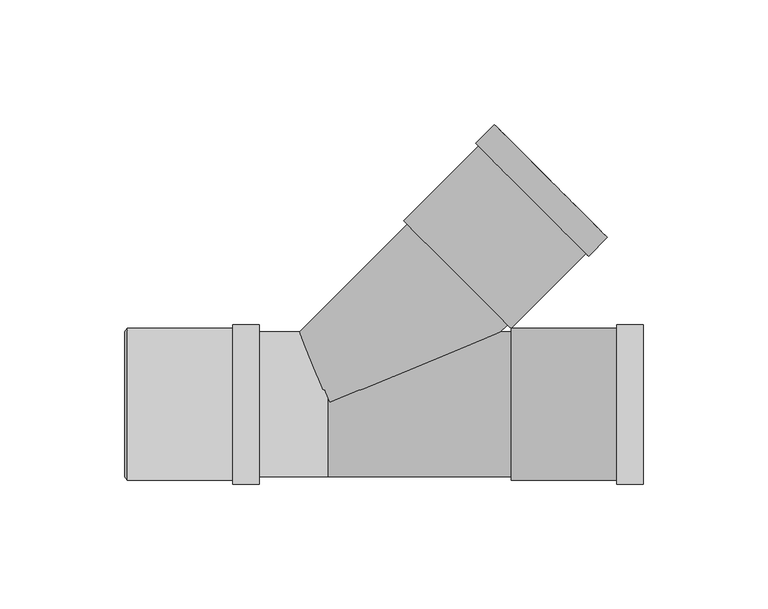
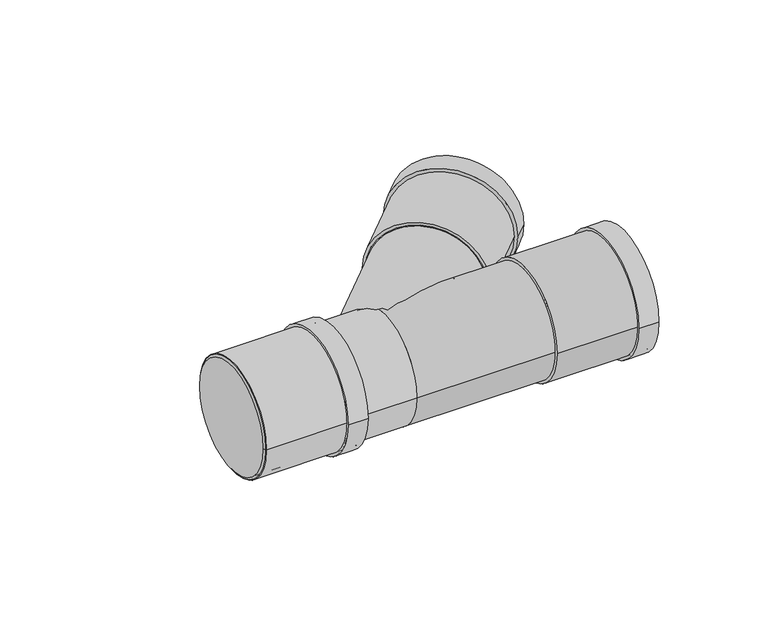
"""IFC4 building model written with IfcOpenShell, lengths in millimetres: pipe fitting geometry, Superdrain SKEA Branch : Superdrain SKEA Branch."""

from ifc_helpers import new_model, si_unit, point, frame, origin, origin_2d, place, context, project, spatial, polyline, circle_curve, ellipse_curve, trimmed, segment, composite_curve, outline, extrude, source, transform, mapped, element, save
from ifc_brep_helpers import plane_surface, cylinder_surface, revolved_surface, advanced_brep


def pipe_fitting_bbc5507e(model_context):
    return source(origin(), model_context, "Body", "SolidModel", [
        extrude(outline(composite_curve([segment(trimmed(circle_curve(origin_2d(), 30.45), [point((30.45, 0.0))], [point((-30.45, 0.0))], False, "CARTESIAN"), True, "CONTINUOUS"), segment(trimmed(circle_curve(origin_2d(), 30.45), [point((-30.45, 0.0))], [point((30.45, 0.0))], False, "CARTESIAN"), True, "CONTINUOUS")], self_intersect=False), holes=[composite_curve([segment(trimmed(circle_curve(origin_2d(), 29.0), [point((29.0, 0.0))], [point((-29.0, 0.0))], True, "CARTESIAN"), True, "CONTINUOUS"), segment(trimmed(circle_curve(origin_2d(), 29.0), [point((-29.0, 0.0))], [point((29.0, 0.0))], True, "CARTESIAN"), True, "CONTINUOUS")], self_intersect=False)]), frame((-80.4, 0.0, 0.0), z_axis=(1.0, 0.0, 0.0), x_axis=(0.0, 1.0, 0.0)), (0.0, 0.0, 1.0), 53.0),
        extrude(outline(composite_curve([segment(trimmed(circle_curve(origin_2d(), 31.9725), [point((31.9725, 0.0))], [point((-31.9725, 0.0))], False, "CARTESIAN"), True, "CONTINUOUS"), segment(trimmed(circle_curve(origin_2d(), 31.9725), [point((-31.9725, 0.0))], [point((31.9725, 0.0))], False, "CARTESIAN"), True, "CONTINUOUS")], self_intersect=False), holes=[composite_curve([segment(trimmed(circle_curve(origin_2d(), 29.0), [point((29.0, 0.0))], [point((-29.0, 0.0))], True, "CARTESIAN"), True, "CONTINUOUS"), segment(trimmed(circle_curve(origin_2d(), 29.0), [point((-29.0, 0.0))], [point((29.0, 0.0))], True, "CARTESIAN"), True, "CONTINUOUS")], self_intersect=False)]), frame((-38.0, 0.0, 0.0), z_axis=(1.0, 0.0, 0.0), x_axis=(0.0, 1.0, 0.0)), (0.0, 0.0, 1.0), 10.6),
        advanced_brep(
        [(-81.4, 29.0, 0.0), (-81.4, -29.0, 0.0), (-80.4, 30.45, 0.0), (-80.4, -30.45, 0.0)],
        [
            (0, 1, circle_curve(frame((-81.4, 0.0, 0.0), z_axis=(-1.0, 0.0, 0.0), x_axis=(0.0, 1.0000000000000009, 0.0)), 29.0)),
            (1, 0, circle_curve(frame((-81.4, 0.0, 0.0), z_axis=(-1.0, 0.0, 0.0), x_axis=(0.0, -1.0000000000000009, 0.0)), 29.0)),
            (2, 3, circle_curve(frame((-80.4, 0.0, 0.0), z_axis=(1.0, 0.0, 0.0), x_axis=(0.0, -1.0000000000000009, 0.0)), 30.45)),
            (3, 2, circle_curve(frame((-80.4, 0.0, 0.0), z_axis=(1.0, 0.0, 0.0), x_axis=(0.0, 1.0000000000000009, 0.0)), 30.45)),
            (3, 1),
            (0, 2),
        ],
        [
            plane_surface(frame((-81.4, 0.0, 0.0), z_axis=(-1.0, 0.0, 0.0), x_axis=(0.0, 0.0, -1.0))),
            plane_surface(frame((-80.4, 0.0, 0.0), z_axis=(1.0, 0.0, 0.0), x_axis=(0.0, 0.0, -1.0))),
            revolved_surface(polyline([(-81.4, 28.999999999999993, 0.0), (-80.4, 30.45, 0.0)]), (-101.4, 0.0, 0.0), (1.0000000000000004, 0.0, 0.0)),
            revolved_surface(polyline([(-81.4, -28.999999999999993, 0.0), (-80.4, -30.45, 0.0)]), (-101.4, 0.0, 0.0), (1.0000000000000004, 0.0, 0.0)),
        ],
        [
            (0, [[1, 2]]),
            (1, [[3, 4]]),
            (2, [[-4, 5, -1, 6]]),
            (3, [[-3, -6, -2, -5]]),
        ],
    ),
        advanced_brep(
        [(72.1390338, 31.9470844, 0.0), (31.9470844, 72.1390338, 0.0), (-11.7719494, 28.42, 0.0), (0.0, 0.0, 28.42), (68.6119494, 28.42, 0.0), (0.0, 0.0, -28.42)],
        [
            (0, 1, circle_curve(frame((52.0430591, 52.0430591, 0.0), z_axis=(0.7071067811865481, 0.707106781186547, 0.0), x_axis=(-0.707106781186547, 0.7071067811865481, 0.0)), 28.42)),
            (1, 0, circle_curve(frame((52.0430591, 52.0430591, 0.0), z_axis=(0.7071067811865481, 0.707106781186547, 0.0), x_axis=(-0.707106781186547, 0.7071067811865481, 0.0)), 28.42)),
            (1, 2),
            (2, 3, ellipse_curve(frame((0.0, 0.0, 0.0), z_axis=(0.923879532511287, 0.38268343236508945, 0.0), x_axis=(0.38268343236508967, -0.923879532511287, 0.0)), 30.7615863, 28.42)),
            (3, 4, ellipse_curve(frame((0.0, 0.0, 0.0), z_axis=(-0.3826834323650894, 0.9238795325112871, 0.0), x_axis=(-0.9238795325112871, -0.38268343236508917, 0.0)), 74.2650389, 28.42)),
            (4, 0),
            (4, 5, ellipse_curve(frame((0.0, 0.0, 0.0), z_axis=(-0.3826834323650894, 0.9238795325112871, 0.0), x_axis=(-0.9238795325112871, -0.38268343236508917, 0.0)), 74.2650389, 28.42)),
            (5, 2, ellipse_curve(frame((0.0, 0.0, 0.0), z_axis=(0.923879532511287, 0.38268343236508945, 0.0), x_axis=(0.38268343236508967, -0.923879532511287, 0.0)), 30.7615863, 28.42)),
            (2, 4),
        ],
        [
            plane_surface(frame((52.0430591, 52.0430591, 0.0), z_axis=(0.7071067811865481, 0.707106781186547, 0.0), x_axis=(0.0, 0.0, 1.0))),
            cylinder_surface(frame((0.0, 0.0, 0.0), z_axis=(-0.7071067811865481, -0.707106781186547, 0.0), x_axis=(-0.707106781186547, 0.7071067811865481, 0.0)), 28.42),
            revolved_surface(polyline([(-68.61194942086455, 28.42, 0.0), (68.61194942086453, 28.42, 0.0)]), (-85.4, 0.0, 0.0), (-1.0, 0.0, 0.0)),
        ],
        [
            (0, [[1, 2]]),
            (1, [[-2, 3, 4, 5, 6]]),
            (1, [[-1, -6, 7, 8, -3]]),
            (2, [[9, -5, -4]]),
            (2, [[-9, -8, -7]]),
        ],
    ),
        advanced_brep(
        [(73.6, -30.45, 0.0), (73.6, 30.45, 0.0), (126.6, -30.45, 0.0), (126.6, 30.45, 0.0), (126.6, -29.0, 0.0), (126.6, 29.0, 0.0), (74.6, -29.0, 0.0), (74.6, 29.0, 0.0)],
        [
            (0, 1, circle_curve(frame((73.6, 0.0, 0.0), z_axis=(-1.0, 0.0, 0.0), x_axis=(0.0, 1.0, 0.0)), 30.45)),
            (1, 0, circle_curve(frame((73.6, 0.0, 0.0), z_axis=(-1.0, 0.0, 0.0), x_axis=(0.0, 1.0, 0.0)), 30.45)),
            (2, 3, circle_curve(frame((126.6, 0.0, 0.0), z_axis=(1.0, 0.0, 0.0), x_axis=(0.0, 1.0, 0.0)), 30.45)),
            (3, 2, circle_curve(frame((126.6, 0.0, 0.0), z_axis=(1.0, 0.0, 0.0), x_axis=(0.0, 1.0, 0.0)), 30.45)),
            (4, 5, circle_curve(frame((126.6, 0.0, 0.0), z_axis=(-1.0, 0.0, 0.0), x_axis=(0.0, 1.0, 0.0)), 29.0)),
            (5, 4, circle_curve(frame((126.6, 0.0, 0.0), z_axis=(-1.0, 0.0, 0.0), x_axis=(0.0, 1.0, 0.0)), 29.0)),
            (0, 2),
            (3, 1),
            (6, 7, circle_curve(frame((74.6, 0.0, 0.0), z_axis=(-1.0, 0.0, 0.0), x_axis=(0.0, 1.0, 0.0)), 29.0)),
            (7, 5),
            (4, 6),
            (7, 6, circle_curve(frame((74.6, 0.0, 0.0), z_axis=(-1.0, 0.0, 0.0), x_axis=(0.0, 1.0, 0.0)), 29.0)),
        ],
        [
            plane_surface(frame((73.6, 0.0, 0.0), z_axis=(-1.0, 0.0, 0.0), x_axis=(0.0, 0.0, 1.0))),
            plane_surface(frame((126.6, 0.0, 0.0), z_axis=(1.0, 0.0, 0.0), x_axis=(0.0, 0.0, 1.0))),
            cylinder_surface(frame((73.6, 0.0, 0.0), z_axis=(-1.0, 0.0, 0.0), x_axis=(0.0, 1.0, 0.0)), 30.45),
            revolved_surface(polyline([(74.6, 29.0, 0.0), (126.6, 29.0, 0.0)]), (74.6, 0.0, 0.0), (-1.0, 0.0, 0.0)),
            plane_surface(frame((74.6, 0.0, 0.0), z_axis=(1.0, 0.0, 0.0), x_axis=(0.0, 0.0, 1.0))),
        ],
        [
            (0, [[1, 2]]),
            (1, [[3, 4], [5, 6]]),
            (2, [[-1, 7, -4, 8]]),
            (2, [[-2, -8, -3, -7]]),
            (3, [[9, 10, -5, 11]]),
            (3, [[12, -11, -6, -10]]),
            (4, [[-12, -9]]),
        ],
    ),
        extrude(outline(composite_curve([segment(trimmed(circle_curve(origin_2d(), 31.9725), [point((31.9725, 0.0))], [point((-31.9725, 0.0))], False, "CARTESIAN"), True, "CONTINUOUS"), segment(trimmed(circle_curve(origin_2d(), 31.9725), [point((-31.9725, 0.0))], [point((31.9725, 0.0))], False, "CARTESIAN"), True, "CONTINUOUS")], self_intersect=False), holes=[composite_curve([segment(trimmed(circle_curve(origin_2d(), 29.0), [point((29.0, 0.0))], [point((-29.0, 0.0))], True, "CARTESIAN"), True, "CONTINUOUS"), segment(trimmed(circle_curve(origin_2d(), 29.0), [point((-29.0, 0.0))], [point((29.0, 0.0))], True, "CARTESIAN"), True, "CONTINUOUS")], self_intersect=False)]), frame((116.0, 0.0, 0.0), z_axis=(1.0, 0.0, 0.0), x_axis=(0.0, 1.0, 0.0)), (0.0, 0.0, 1.0), 10.6),
        extrude(outline(composite_curve([segment(trimmed(circle_curve(origin_2d(), 29.0), [point((29.0, 0.0))], [point((-29.0, 0.0))], False, "CARTESIAN"), True, "CONTINUOUS"), segment(trimmed(circle_curve(origin_2d(), 29.0), [point((-29.0, 0.0))], [point((29.0, 0.0))], False, "CARTESIAN"), True, "CONTINUOUS")], self_intersect=False)), frame((-80.4, 0.0, 0.0), z_axis=(1.0, 0.0, 0.0), x_axis=(0.0, 1.0, 0.0)), (0.0, 0.0, 1.0), 80.4),
        extrude(outline(composite_curve([segment(trimmed(circle_curve(origin_2d(), 29.0), [point((-29.0, 0.0))], [point((29.0, 0.0))], False, "CARTESIAN"), True, "CONTINUOUS"), segment(trimmed(circle_curve(origin_2d(), 29.0), [point((29.0, 0.0))], [point((-29.0, 0.0))], False, "CARTESIAN"), True, "CONTINUOUS")], self_intersect=False)), frame((0.0, 0.0, 0.0), z_axis=(1.0, 0.0, 0.0), x_axis=(0.0, 1.0, 0.0)), (0.0, 0.0, 1.0), 73.6),
        extrude(outline(composite_curve([segment(trimmed(circle_curve(origin_2d(), 31.9725), [point((0.0, 31.9725))], [point((0.0, -31.9725))], False, "CARTESIAN"), True, "CONTINUOUS"), segment(trimmed(circle_curve(origin_2d(), 31.9725), [point((0.0, -31.9725))], [point((0.0, 31.9725))], False, "CARTESIAN"), True, "CONTINUOUS")], self_intersect=False), holes=[composite_curve([segment(trimmed(circle_curve(origin_2d(), 29.0), [point((0.0, 29.0))], [point((0.0, -29.0))], True, "CARTESIAN"), True, "CONTINUOUS"), segment(trimmed(circle_curve(origin_2d(), 29.0), [point((0.0, -29.0))], [point((0.0, 29.0))], True, "CARTESIAN"), True, "CONTINUOUS")], self_intersect=False)]), frame((82.0243866, 82.0243866, 0.0), z_axis=(0.7071067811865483, 0.7071067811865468, 0.0), x_axis=(0.0, 0.0, 1.0)), (0.0, 0.0, 1.0), 10.6),
        extrude(outline(composite_curve([segment(trimmed(circle_curve(origin_2d(), 30.45), [point((0.0, 30.45))], [point((0.0, -30.45))], False, "CARTESIAN"), True, "CONTINUOUS"), segment(trimmed(circle_curve(origin_2d(), 30.45), [point((0.0, -30.45))], [point((0.0, 30.45))], False, "CARTESIAN"), True, "CONTINUOUS")], self_intersect=False), holes=[composite_curve([segment(trimmed(circle_curve(origin_2d(), 29.0), [point((0.0, 29.0))], [point((0.0, -29.0))], True, "CARTESIAN"), True, "CONTINUOUS"), segment(trimmed(circle_curve(origin_2d(), 29.0), [point((0.0, -29.0))], [point((0.0, 29.0))], True, "CARTESIAN"), True, "CONTINUOUS")], self_intersect=False)]), frame((52.0430591, 52.0430591, 0.0), z_axis=(0.7071067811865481, 0.7071067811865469, 0.0), x_axis=(0.0, 0.0, 1.0)), (0.0, 0.0, 1.0), 53.0),
    ])


if __name__ == "__main__":
    model = new_model("IFC4")
    model_context = context("Model", 3, world=origin())
    ifc_project = project(units=[si_unit("LENGTHUNIT", "METRE", prefix="MILLI")], contexts=[model_context])
    site = spatial("IfcSite", under=ifc_project)
    building = spatial("IfcBuilding", under=site)
    placement = place(None, origin())
    pipe_fitting_shape = pipe_fitting_bbc5507e(model_context)
    element("IfcPipeFitting", 1, ObjectType="Superdrain SKEA Branch : Superdrain SKEA Branch", at=placement, inside=building, context=model_context, shape_type="MappedRepresentation", body=[
        mapped(pipe_fitting_shape, transform((0.0, 0.0, 0.0), x_axis=(1.0, 0.0, 0.0), y_axis=(0.0, 1.0, 0.0), z_axis=(0.0, 0.0, 1.0))),
    ])
    save(model, "model.ifc")
